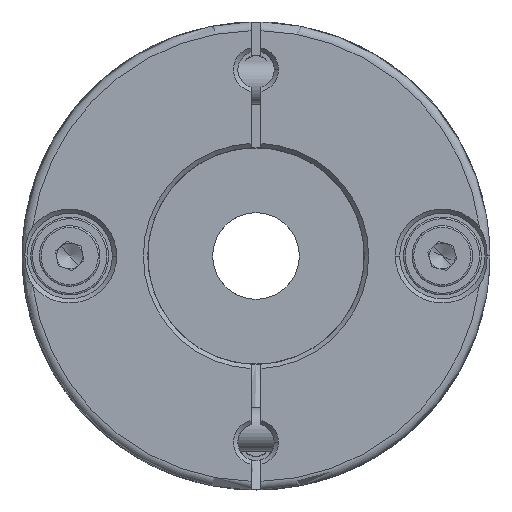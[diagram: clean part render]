
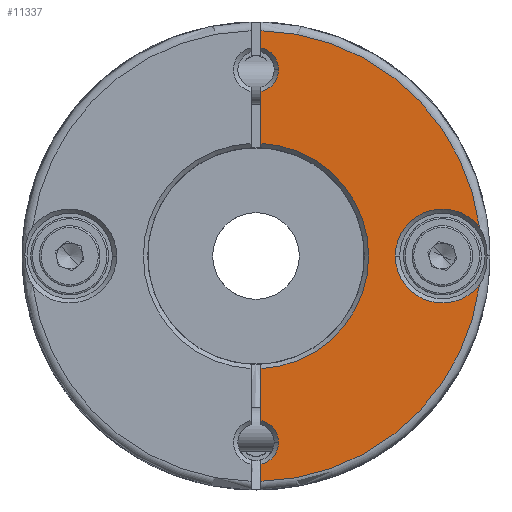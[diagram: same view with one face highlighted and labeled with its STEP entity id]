
A CAD part, front view. The second image highlights one B-rep face of the part: STEP entity #11337.
In plain terms, the highlighted planar face has unit normal (0, -1, 0).
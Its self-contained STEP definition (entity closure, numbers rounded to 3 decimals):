
#74 = ORIENTED_EDGE ( 'NONE', *, *, #19229, .T. ) ;
#81 = ORIENTED_EDGE ( 'NONE', *, *, #19178, .F. ) ;
#82 = ORIENTED_EDGE ( 'NONE', *, *, #19206, .T. ) ;
#85 = ORIENTED_EDGE ( 'NONE', *, *, #19208, .F. ) ;
#100 = ORIENTED_EDGE ( 'NONE', *, *, #19173, .F. ) ;
#120 = ORIENTED_EDGE ( 'NONE', *, *, #22746, .T. ) ;
#121 = ORIENTED_EDGE ( 'NONE', *, *, #22773, .T. ) ;
#153 = ORIENTED_EDGE ( 'NONE', *, *, #19203, .F. ) ;
#170 = ORIENTED_EDGE ( 'NONE', *, *, #22736, .T. ) ;
#171 = ORIENTED_EDGE ( 'NONE', *, *, #19224, .T. ) ;
#175 = ORIENTED_EDGE ( 'NONE', *, *, #19230, .T. ) ;
#237 = ORIENTED_EDGE ( 'NONE', *, *, #22768, .T. ) ;
#239 = ORIENTED_EDGE ( 'NONE', *, *, #19228, .T. ) ;
#729 = DIRECTION ( 'NONE',  ( 1., 0., 0. ) ) ;
#730 = DIRECTION ( 'NONE',  ( 0., -1., 0. ) ) ;
#733 = PLANE ( 'NONE',  #20686 ) ;
#735 = CARTESIAN_POINT ( 'NONE',  ( 0., -23.3, 0. ) ) ;
#1552 = EDGE_LOOP ( 'NONE', ( #81, #74, #100, #120, #239, #85, #121, #237, #171, #82, #153, #170, #175 ) ) ;
#3587 = CARTESIAN_POINT ( 'NONE',  ( 0., -23.3, 21.5 ) ) ;
#3589 = DIRECTION ( 'NONE',  ( 0., 1., 0. ) ) ;
#3591 = DIRECTION ( 'NONE',  ( 1., 0., 0. ) ) ;
#3687 = CARTESIAN_POINT ( 'NONE',  ( 0., -23.3, -21.5 ) ) ;
#3689 = DIRECTION ( 'NONE',  ( 0., 1., 0. ) ) ;
#3691 = DIRECTION ( 'NONE',  ( 1., 0., 0. ) ) ;
#3886 = CARTESIAN_POINT ( 'NONE',  ( 21.5, -23.3, 0. ) ) ;
#3887 = DIRECTION ( 'NONE',  ( 0., 1., 0. ) ) ;
#3889 = DIRECTION ( 'NONE',  ( 1., 0., 0. ) ) ;
#3936 = CARTESIAN_POINT ( 'NONE',  ( 0., -23.3, 0. ) ) ;
#3938 = DIRECTION ( 'NONE',  ( 0., -1., 0. ) ) ;
#3940 = DIRECTION ( 'NONE',  ( 1., 0., 0. ) ) ;
#6822 = DIRECTION ( 'NONE',  ( 0., 0., 1. ) ) ;
#6830 = CARTESIAN_POINT ( 'NONE',  ( 0.575, -23.3, 0. ) ) ;
#11337 = ADVANCED_FACE ( 'NONE', ( #16442 ), #733, .T. ) ;
#13672 = LINE ( 'NONE', #26612, #13680 ) ;
#13675 = LINE ( 'NONE', #6830, #13677 ) ;
#13677 = VECTOR ( 'NONE', #6822, 1000. ) ;
#13680 = VECTOR ( 'NONE', #26624, 1000. ) ;
#13714 = LINE ( 'NONE', #26686, #13717 ) ;
#13717 = VECTOR ( 'NONE', #26665, 1000. ) ;
#13718 = LINE ( 'NONE', #26685, #13721 ) ;
#13719 = CIRCLE ( 'NONE', #17021, 26. ) ;
#13721 = VECTOR ( 'NONE', #26715, 1000. ) ;
#13735 = CIRCLE ( 'NONE', #17026, 5.425 ) ;
#13741 = CIRCLE ( 'NONE', #17029, 13. ) ;
#13742 = CIRCLE ( 'NONE', #17028, 2.6 ) ;
#13743 = CIRCLE ( 'NONE', #17030, 2.6 ) ;
#16442 = FACE_OUTER_BOUND ( 'NONE', #1552, .T. ) ;
#17021 = AXIS2_PLACEMENT_3D ( 'NONE', #26702, #26703, #26704 ) ;
#17026 = AXIS2_PLACEMENT_3D ( 'NONE', #26780, #26781, #26782 ) ;
#17028 = AXIS2_PLACEMENT_3D ( 'NONE', #26801, #26802, #26803 ) ;
#17029 = AXIS2_PLACEMENT_3D ( 'NONE', #26804, #26805, #26806 ) ;
#17030 = AXIS2_PLACEMENT_3D ( 'NONE', #26809, #26810, #26811 ) ;
#18103 = AXIS2_PLACEMENT_3D ( 'NONE', #3587, #3589, #3591 ) ;
#18107 = AXIS2_PLACEMENT_3D ( 'NONE', #3687, #3689, #3691 ) ;
#18113 = AXIS2_PLACEMENT_3D ( 'NONE', #3886, #3887, #3889 ) ;
#18116 = AXIS2_PLACEMENT_3D ( 'NONE', #3936, #3938, #3940 ) ;
#19173 = EDGE_CURVE ( 'NONE', #23500, #23616, #13675, .T. ) ;
#19178 = EDGE_CURVE ( 'NONE', #23621, #23622, #13672, .T. ) ;
#19203 = EDGE_CURVE ( 'NONE', #23486, #23627, #13714, .T. ) ;
#19206 = EDGE_CURVE ( 'NONE', #23629, #23627, #13719, .T. ) ;
#19208 = EDGE_CURVE ( 'NONE', #23518, #23630, #13718, .T. ) ;
#19224 = EDGE_CURVE ( 'NONE', #23517, #23629, #13735, .T. ) ;
#19228 = EDGE_CURVE ( 'NONE', #23501, #23630, #13742, .T. ) ;
#19229 = EDGE_CURVE ( 'NONE', #23621, #23616, #13741, .T. ) ;
#19230 = EDGE_CURVE ( 'NONE', #23485, #23622, #13743, .T. ) ;
#20686 = AXIS2_PLACEMENT_3D ( 'NONE', #735, #730, #729 ) ;
#21067 = CIRCLE ( 'NONE', #18103, 2.6 ) ;
#21107 = CIRCLE ( 'NONE', #18107, 2.6 ) ;
#21159 = CIRCLE ( 'NONE', #18113, 5.425 ) ;
#21169 = CIRCLE ( 'NONE', #18116, 26. ) ;
#22736 = EDGE_CURVE ( 'NONE', #23486, #23485, #21067, .T. ) ;
#22746 = EDGE_CURVE ( 'NONE', #23500, #23501, #21107, .T. ) ;
#22768 = EDGE_CURVE ( 'NONE', #23516, #23517, #21159, .T. ) ;
#22773 = EDGE_CURVE ( 'NONE', #23518, #23516, #21169, .T. ) ;
#23485 = VERTEX_POINT ( 'NONE', #26095 ) ;
#23486 = VERTEX_POINT ( 'NONE', #26096 ) ;
#23500 = VERTEX_POINT ( 'NONE', #26110 ) ;
#23501 = VERTEX_POINT ( 'NONE', #26111 ) ;
#23516 = VERTEX_POINT ( 'NONE', #26126 ) ;
#23517 = VERTEX_POINT ( 'NONE', #26127 ) ;
#23518 = VERTEX_POINT ( 'NONE', #26128 ) ;
#23616 = VERTEX_POINT ( 'NONE', #26226 ) ;
#23621 = VERTEX_POINT ( 'NONE', #26231 ) ;
#23622 = VERTEX_POINT ( 'NONE', #26232 ) ;
#23627 = VERTEX_POINT ( 'NONE', #26237 ) ;
#23629 = VERTEX_POINT ( 'NONE', #26239 ) ;
#23630 = VERTEX_POINT ( 'NONE', #26240 ) ;
#26095 = CARTESIAN_POINT ( 'NONE',  ( 2.6, -23.3, 21.5 ) ) ;
#26096 = CARTESIAN_POINT ( 'NONE',  ( 0.575, -23.3, 24.036 ) ) ;
#26110 = CARTESIAN_POINT ( 'NONE',  ( 0.575, -23.3, -18.964 ) ) ;
#26111 = CARTESIAN_POINT ( 'NONE',  ( 2.6, -23.3, -21.5 ) ) ;
#26126 = CARTESIAN_POINT ( 'NONE',  ( 25.786, -23.3, -3.325 ) ) ;
#26127 = CARTESIAN_POINT ( 'NONE',  ( 16.075, -23.3, 0. ) ) ;
#26128 = CARTESIAN_POINT ( 'NONE',  ( 0.575, -23.3, -25.994 ) ) ;
#26226 = CARTESIAN_POINT ( 'NONE',  ( 0.575, -23.3, -12.987 ) ) ;
#26231 = CARTESIAN_POINT ( 'NONE',  ( 0.575, -23.3, 12.987 ) ) ;
#26232 = CARTESIAN_POINT ( 'NONE',  ( 0.575, -23.3, 18.964 ) ) ;
#26237 = CARTESIAN_POINT ( 'NONE',  ( 0.575, -23.3, 25.994 ) ) ;
#26239 = CARTESIAN_POINT ( 'NONE',  ( 25.786, -23.3, 3.325 ) ) ;
#26240 = CARTESIAN_POINT ( 'NONE',  ( 0.575, -23.3, -24.036 ) ) ;
#26612 = CARTESIAN_POINT ( 'NONE',  ( 0.575, -23.3, 0. ) ) ;
#26624 = DIRECTION ( 'NONE',  ( 0., 0., 1. ) ) ;
#26665 = DIRECTION ( 'NONE',  ( 0., 0., 1. ) ) ;
#26685 = CARTESIAN_POINT ( 'NONE',  ( 0.575, -23.3, 0. ) ) ;
#26686 = CARTESIAN_POINT ( 'NONE',  ( 0.575, -23.3, 0. ) ) ;
#26702 = CARTESIAN_POINT ( 'NONE',  ( 0., -23.3, 0. ) ) ;
#26703 = DIRECTION ( 'NONE',  ( 0., -1., 0. ) ) ;
#26704 = DIRECTION ( 'NONE',  ( 1., 0., 0. ) ) ;
#26715 = DIRECTION ( 'NONE',  ( 0., 0., 1. ) ) ;
#26780 = CARTESIAN_POINT ( 'NONE',  ( 21.5, -23.3, 0. ) ) ;
#26781 = DIRECTION ( 'NONE',  ( 0., 1., 0. ) ) ;
#26782 = DIRECTION ( 'NONE',  ( 1., 0., 0. ) ) ;
#26801 = CARTESIAN_POINT ( 'NONE',  ( 0., -23.3, -21.5 ) ) ;
#26802 = DIRECTION ( 'NONE',  ( 0., 1., 0. ) ) ;
#26803 = DIRECTION ( 'NONE',  ( 1., 0., 0. ) ) ;
#26804 = CARTESIAN_POINT ( 'NONE',  ( 0., -23.3, 0. ) ) ;
#26805 = DIRECTION ( 'NONE',  ( 0., 1., 0. ) ) ;
#26806 = DIRECTION ( 'NONE',  ( 0., 0., -1. ) ) ;
#26809 = CARTESIAN_POINT ( 'NONE',  ( 0., -23.3, 21.5 ) ) ;
#26810 = DIRECTION ( 'NONE',  ( 0., 1., 0. ) ) ;
#26811 = DIRECTION ( 'NONE',  ( 1., 0., 0. ) ) ;
